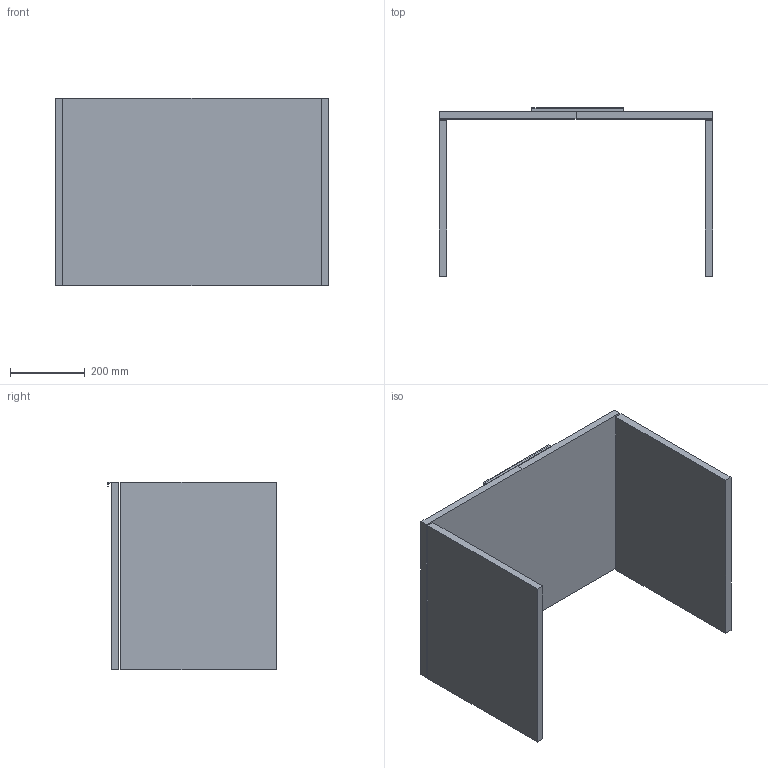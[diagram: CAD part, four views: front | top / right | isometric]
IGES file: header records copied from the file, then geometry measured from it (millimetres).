
Start section: START RECORD GO HERE.
Global section: file name: 7162.igs; native system: DASSAULT SYSTEMES CATIA V5 R19 - www.3ds.com; preprocessor: CATIA Version 5 Release 19 SP 5 ; author: gioge; organization: LAPTOP-G94B6G74; date: 20201002.173938; units: millimetre
Bounding box: 730 x 450 x 500 mm (x, y, z)
Surface area: 1692272 mm2 (no closed solid volume)
Topology: 0 solids, 0 shells, 28 faces, 120 edges, 120 vertices
Faces by surface type: plane 28
